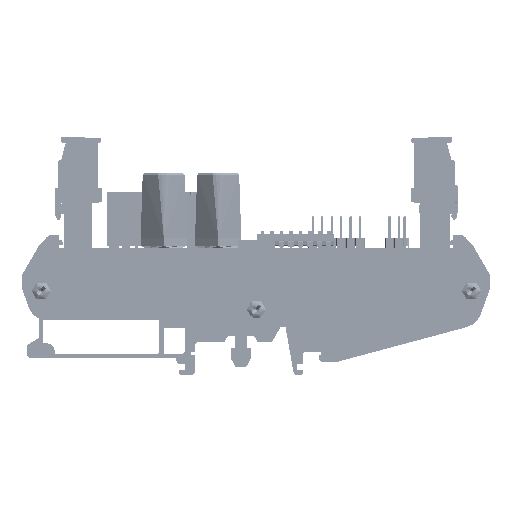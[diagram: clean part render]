
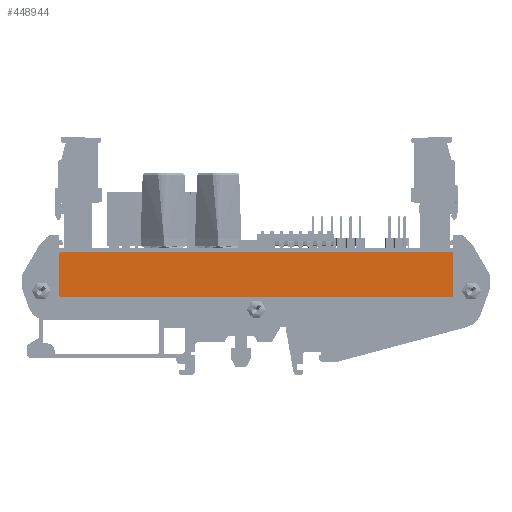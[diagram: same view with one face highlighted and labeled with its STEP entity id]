
A CAD part, left-side view. The second image highlights one B-rep face of the part: STEP entity #448944.
In plain terms, the highlighted planar face has unit normal (-1, 0, 0).
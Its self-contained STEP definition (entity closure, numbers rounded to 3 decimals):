
#35636=FACE_OUTER_BOUND('',#59300,.T.);
#59300=EDGE_LOOP('',(#388566,#388567,#388568,#388569,#388570,#388571,#388572,
#388573));
#72054=CIRCLE('',#483207,0.5);
#72055=CIRCLE('',#483208,0.5);
#72056=CIRCLE('',#483209,0.5);
#72057=CIRCLE('',#483210,0.5);
#117577=LINE('',#779833,#163692);
#117578=LINE('',#779837,#163693);
#117579=LINE('',#779841,#163694);
#117580=LINE('',#779845,#163695);
#163692=VECTOR('',#596472,10.);
#163693=VECTOR('',#596475,10.);
#163694=VECTOR('',#596478,10.);
#163695=VECTOR('',#596481,10.);
#204936=VERTEX_POINT('',#779831);
#204937=VERTEX_POINT('',#779832);
#204938=VERTEX_POINT('',#779834);
#204939=VERTEX_POINT('',#779836);
#204940=VERTEX_POINT('',#779838);
#204941=VERTEX_POINT('',#779840);
#204942=VERTEX_POINT('',#779842);
#204943=VERTEX_POINT('',#779844);
#266540=EDGE_CURVE('',#204936,#204937,#117577,.T.);
#266541=EDGE_CURVE('',#204938,#204937,#72054,.T.);
#266542=EDGE_CURVE('',#204938,#204939,#117578,.T.);
#266543=EDGE_CURVE('',#204940,#204939,#72055,.T.);
#266544=EDGE_CURVE('',#204940,#204941,#117579,.T.);
#266545=EDGE_CURVE('',#204942,#204941,#72056,.T.);
#266546=EDGE_CURVE('',#204942,#204943,#117580,.T.);
#266547=EDGE_CURVE('',#204936,#204943,#72057,.T.);
#388566=ORIENTED_EDGE('',*,*,#266540,.T.);
#388567=ORIENTED_EDGE('',*,*,#266541,.F.);
#388568=ORIENTED_EDGE('',*,*,#266542,.T.);
#388569=ORIENTED_EDGE('',*,*,#266543,.F.);
#388570=ORIENTED_EDGE('',*,*,#266544,.T.);
#388571=ORIENTED_EDGE('',*,*,#266545,.F.);
#388572=ORIENTED_EDGE('',*,*,#266546,.T.);
#388573=ORIENTED_EDGE('',*,*,#266547,.F.);
#404803=PLANE('',#483206);
#448944=ADVANCED_FACE('',(#35636),#404803,.T.);
#483206=AXIS2_PLACEMENT_3D('',#779830,#596470,#596471);
#483207=AXIS2_PLACEMENT_3D('',#779835,#596473,#596474);
#483208=AXIS2_PLACEMENT_3D('',#779839,#596476,#596477);
#483209=AXIS2_PLACEMENT_3D('',#779843,#596479,#596480);
#483210=AXIS2_PLACEMENT_3D('',#779846,#596482,#596483);
#596470=DIRECTION('center_axis',(-1.,0.,0.));
#596471=DIRECTION('ref_axis',(0.,0.,1.));
#596472=DIRECTION('',(0.,0.,-1.));
#596473=DIRECTION('center_axis',(1.,0.,0.));
#596474=DIRECTION('ref_axis',(0.,1.,0.));
#596475=DIRECTION('',(0.,-1.,0.));
#596476=DIRECTION('center_axis',(1.,0.,0.));
#596477=DIRECTION('ref_axis',(0.,0.,
-1.));
#596478=DIRECTION('',(0.,0.,1.));
#596479=DIRECTION('center_axis',(1.,0.,0.));
#596480=DIRECTION('ref_axis',(0.,-1.,0.));
#596481=DIRECTION('',(0.,1.,0.));
#596482=DIRECTION('center_axis',(1.,0.,0.));
#596483=DIRECTION('ref_axis',(0.,0.,1.));
#779830=CARTESIAN_POINT('Origin',(-1.23,53.756,-13.201));
#779831=CARTESIAN_POINT('',(-1.23,106.656,-1.7));
#779832=CARTESIAN_POINT('',(-1.23,106.656,-12.7));
#779833=CARTESIAN_POINT('',(-1.23,106.656,-1.7));
#779834=CARTESIAN_POINT('',(-1.23,106.156,-13.2));
#779835=CARTESIAN_POINT('Origin',(-1.23,106.156,-12.7));
#779836=CARTESIAN_POINT('',(-1.23,1.356,-13.2));
#779837=CARTESIAN_POINT('',(-1.23,106.156,-13.2));
#779838=CARTESIAN_POINT('',(-1.23,0.856,-12.7));
#779839=CARTESIAN_POINT('Origin',(-1.23,1.356,-12.7));
#779840=CARTESIAN_POINT('',(-1.23,0.856,-1.7));
#779841=CARTESIAN_POINT('',(-1.23,0.856,-12.7));
#779842=CARTESIAN_POINT('',(-1.23,1.356,-1.2));
#779843=CARTESIAN_POINT('Origin',(-1.23,1.356,-1.7));
#779844=CARTESIAN_POINT('',(-1.23,106.156,-1.2));
#779845=CARTESIAN_POINT('',(-1.23,1.356,-1.2));
#779846=CARTESIAN_POINT('Origin',(-1.23,106.156,-1.7));
